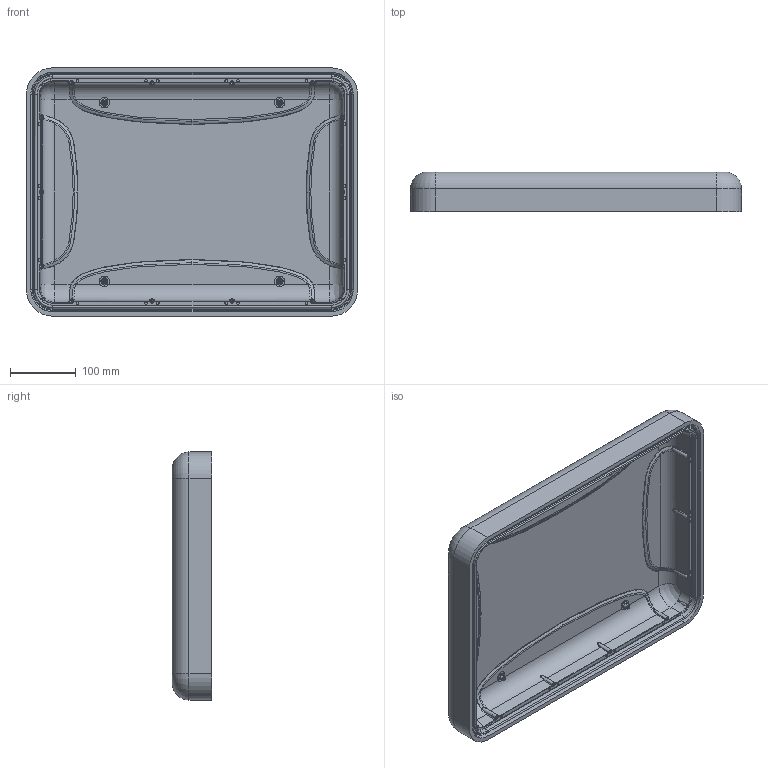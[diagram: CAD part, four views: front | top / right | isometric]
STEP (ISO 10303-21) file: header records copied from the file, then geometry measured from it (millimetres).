
FILE_DESCRIPTION (( 'STEP AP203' ), '1' );
FILE_NAME ('930_R1_Top_INNER_SURFACE_STEP.STEP', '2020-03-18T21:23:48', ( 'Sylvain' ), ( '' ), 'SwSTEP 2.0', 'SolidWorks 2018', '' );
FILE_SCHEMA (( 'CONFIG_CONTROL_DESIGN' ));
Length unit declared in the file: inch
Products named in the file (1): 930_R1_Top_INNER_SURFACE_STEP
Bounding box: 501.82 x 60 x 376.08 mm (x, y, z)
Volume: 3163837.5 mm3; surface area: 547895.6 mm2
Topology: 1 solids, 1 shells, 938 faces, 2259 edges, 1400 vertices
Faces by surface type: plane 333, bspline 322, torus 122, cylinder 103, cone 56, sphere 2
Entity records: 53696 total; most frequent: CARTESIAN_POINT 33931, ORIENTED_EDGE 4514, DIRECTION 3429, EDGE_CURVE 2257, VERTEX_POINT 1400, AXIS2_PLACEMENT_3D 1238, EDGE_LOOP 1017, LINE 953
